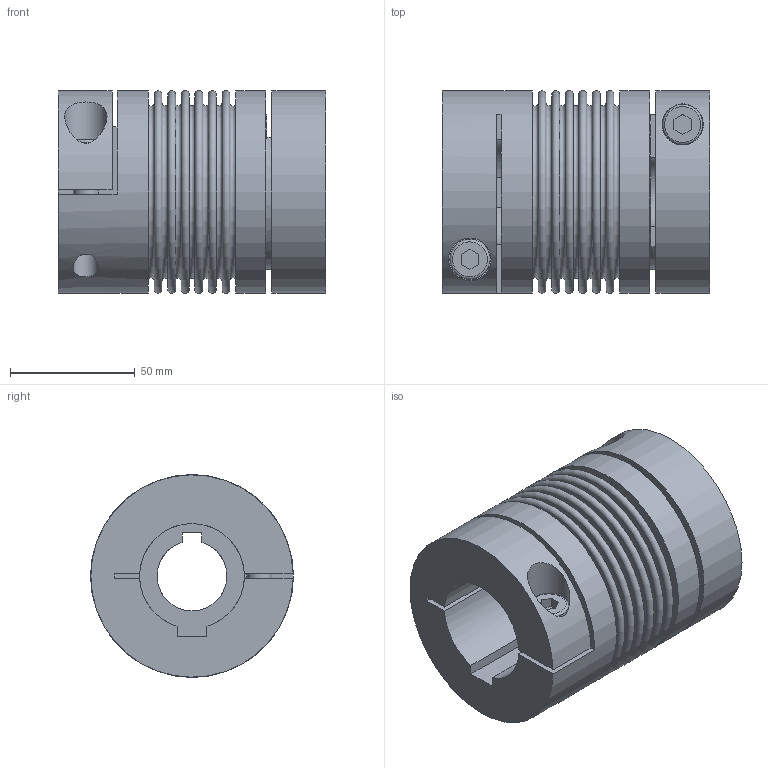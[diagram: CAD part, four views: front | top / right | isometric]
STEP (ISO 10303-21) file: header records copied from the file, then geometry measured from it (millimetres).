
FILE_DESCRIPTION(/* description */ ('STEP AP214'),/* implementation_level */ '2;1');
FILE_NAME(/* name */ 'C:\Diequa Files\DieQua Coupling\BCB\STP\BCB.150.107.#.#.stp',/* time_stamp */ '2018-11-27T08:36:05-06:00',/* author */ ('DiequaCAD'),/* organization */ (''),/* preprocessor_version */ 'ST-DEVELOPER v17.2',/* originating_system */ 'Autodesk Inventor 2019',/* authorisation */ ' ');
FILE_SCHEMA (('AUTOMOTIVE_DESIGN { 1 0 10303 214 3 1 1 }'));
Length unit declared in the file: millimetre
Products named in the file (4): BCB.150.107.#.#; 2018_11_09__18-10-48-142; 2018_11_09__18-10-48-142_1; 2018_11_09__18-10-48-142_2
Assembly tree (3 placements, depth 2):
  BCB.150.107.#.#
    2018_11_09__18-10-48-142
    2018_11_09__18-10-48-142_1
    2018_11_09__18-10-48-142_2
Bounding box: 107 x 81.26 x 81.26 mm (x, y, z)
Volume: 325363.8 mm3; surface area: 98284.3 mm2
Topology: 3 solids, 3 shells, 132 faces, 351 edges, 248 vertices
Faces by surface type: plane 70, cylinder 34, torus 15, cone 13
Full cylindrical faces by diameter (mm): 10 x4, 10.5 x1, 16 x2, 16.5 x1, 17 x1, 62 x1, 65.777 x1, 67 x1, 81 x2
Entity records: 4610 total; most frequent: CARTESIAN_POINT 959, DIRECTION 786, ORIENTED_EDGE 702, EDGE_CURVE 351, AXIS2_PLACEMENT_3D 325, VERTEX_POINT 248, CIRCLE 186, EDGE_LOOP 165
